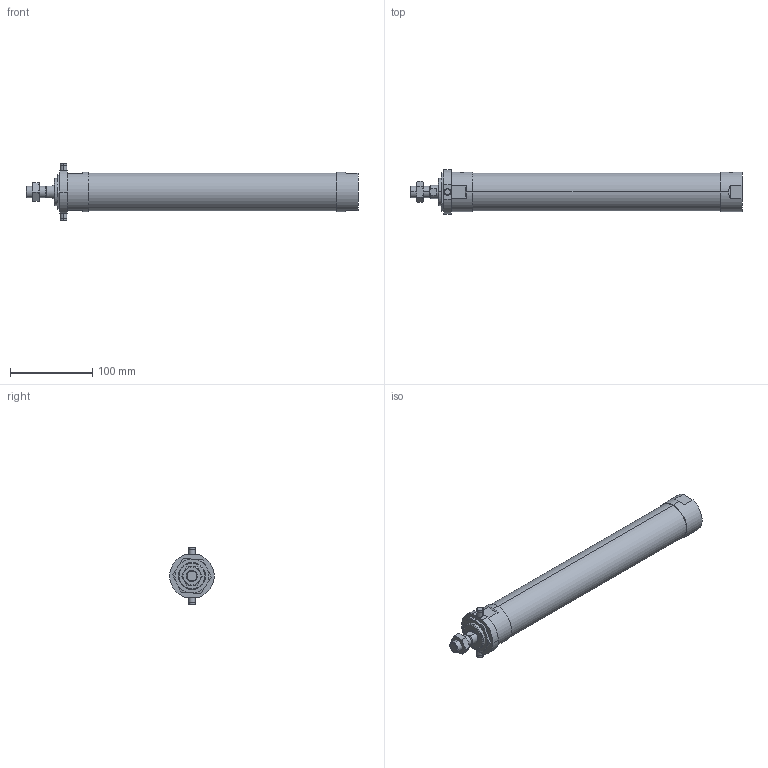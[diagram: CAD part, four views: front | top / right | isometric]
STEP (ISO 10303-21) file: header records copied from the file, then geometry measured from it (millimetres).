
FILE_DESCRIPTION (( 'STEP AP203' ), '1' );
FILE_NAME ('JGND2-40-250-T.STEP', '2016-08-04T03:15:53', ( '' ), ( '' ), 'SwSTEP 2.0', 'SolidWorks 2014', '' );
FILE_SCHEMA (( 'CONFIG_CONTROL_DESIGN' ));
Length unit declared in the file: millimetre
Products named in the file (5): J#2-40-250(P); JGND2-40-250-T; J#2-40-T
Assembly tree (4 placements, depth 2):
  JGND2-40-250-T
    J#2-40-250(P)
    (unnamed)
    (unnamed)
    J#2-40-T
Bounding box: 403 x 53.91 x 70 mm (x, y, z)
Volume: 627609.3 mm3; surface area: 68803 mm2
Topology: 4 solids, 4 shells, 116 faces, 269 edges, 165 vertices
Faces by surface type: plane 38, cylinder 33, torus 24, cone 21
Entity records: 4135 total; most frequent: CARTESIAN_POINT 1032, DIRECTION 550, ORIENTED_EDGE 530, EDGE_CURVE 265, AXIS2_PLACEMENT_3D 225, VERTEX_POINT 165, EDGE_LOOP 130, FACE_OUTER_BOUND 116
